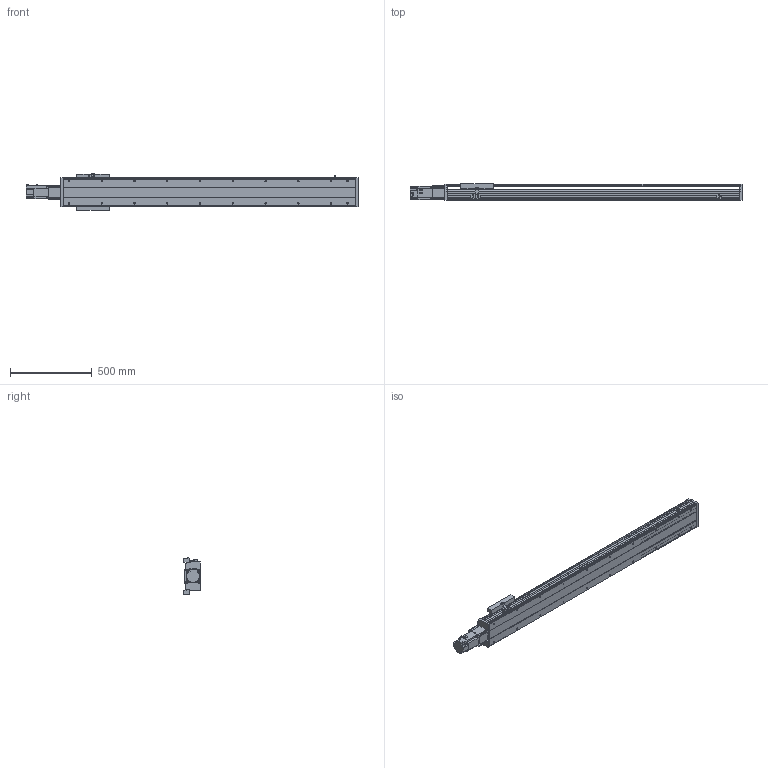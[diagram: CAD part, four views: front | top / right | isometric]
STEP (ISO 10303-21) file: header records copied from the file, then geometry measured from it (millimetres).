
FILE_DESCRIPTION(/* description */ ('STEP AP214'),/* implementation_level */ '2;1');
FILE_NAME(/* name */ 'PSS200-L10-S1450-BC-T75-C1-N(0)',/* time_stamp */ '2022-06-06T04:37:36+02:00',/* author */ ('License CC BY-ND 4.0'),/* organization */ ('CADENAS'),/* preprocessor_version */ 'ST-DEVELOPER v18.102',/* originating_system */ 'PARTsolutions',/* authorisation */ ' ');
FILE_SCHEMA (('AUTOMOTIVE_DESIGN {1 0 10303 214 3 1 1}'));
Length unit declared in the file: millimetre
Products named in the file (8): PSS200-L10-S1450-BC-T75-C1-N(0); PSS200-S1450-BC-N_S; T75-p1; PSS200BC-N_h; PSS200-N_sensor; PSS200-BC-C1-N_sl; PSS200-N_Q; PSS200-S1450-BC-C1-N_body
Assembly tree (9 placements, depth 2):
  PSS200-L10-S1450-BC-T75-C1-N(0)
    PSS200-S1450-BC-N_S
    T75-p1
    PSS200BC-N_h
    PSS200-N_sensor  x3
    PSS200-BC-C1-N_sl
    PSS200-N_Q
    PSS200-S1450-BC-C1-N_body
Bounding box: 2026.3 x 101.5 x 223.86 mm (x, y, z)
Volume: 10604047.9 mm3; surface area: 2819803 mm2
Topology: 9 solids, 9 shells, 593 faces, 1591 edges, 1056 vertices
Faces by surface type: plane 439, cylinder 126, cone 28
Full cylindrical faces by diameter (mm): 4 x2, 4.5 x4, 6 x11, 6.647 x24, 8 x8, 10 x6, 25 x1, 67 x1, 70 x1
Entity records: 16490 total; most frequent: CARTESIAN_POINT 2844, DIRECTION 2721, ORIENTED_EDGE 2678, EDGE_CURVE 1339, LINE 1051, VECTOR 1051, VERTEX_POINT 938, AXIS2_PLACEMENT_3D 835
